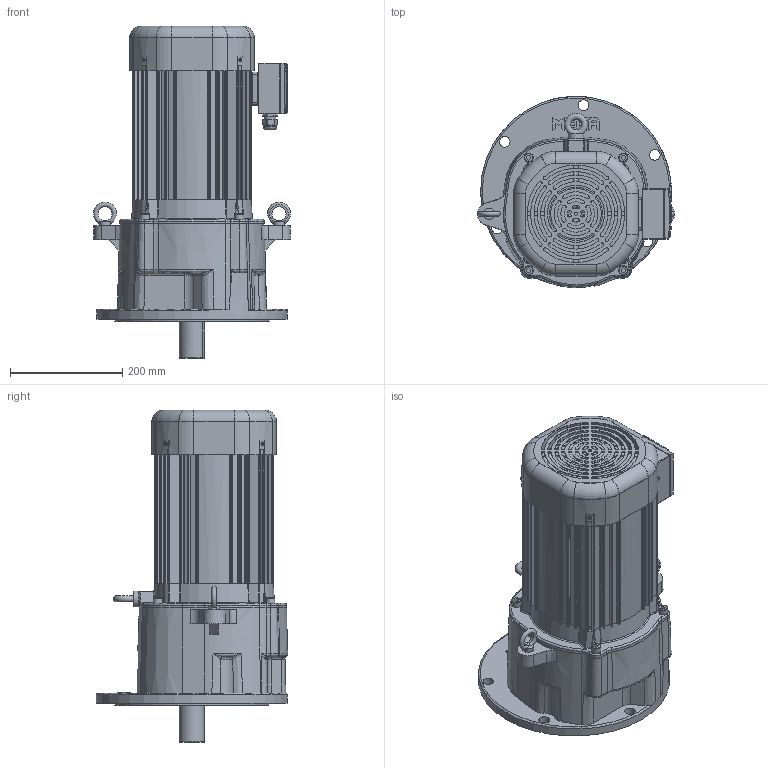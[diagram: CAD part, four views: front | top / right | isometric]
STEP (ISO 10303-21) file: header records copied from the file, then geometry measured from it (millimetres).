
FILE_DESCRIPTION(/* description */ (''),/* implementation_level */ '2;1');
FILE_NAME(/* name */ 'Z:\동력 3D 파일\PMK172-(5~30)-PA(B)370[ ]L (마스터).stp',/* time_stamp */ '2021-07-15T13:21:17+09:00',/* author */ ('jaebok'),/* organization */ (''),/* preprocessor_version */ 'ST-DEVELOPER v18.1',/* originating_system */ 'Autodesk Inventor 2022',/* authorisation */ '');
FILE_SCHEMA (('AUTOMOTIVE_DESIGN { 1 0 10303 214 3 1 1 }'));
Length unit declared in the file: millimetre
Products named in the file (1): 부품2
Bounding box: 351.17 x 341.06 x 591.5 mm (x, y, z)
Volume: 8263201.5 mm3; surface area: 1548945.1 mm2
Topology: 5 solids, 36 shells, 2940 faces, 7529 edges, 4620 vertices
Faces by surface type: plane 996, cylinder 831, bspline 645, torus 281, cone 132, sphere 55
Full cylindrical faces by diameter (mm): 3.25 x1, 3.6 x4, 4 x21, 4.5 x4, 5 x18, 6 x5, 6.8 x4, 7 x8, 8 x7, 8.376 x6, 9 x4, 10 x5, 10.2 x1, 11 x4, 12 x2, 12.5 x1, 15 x1, 16 x4, 19 x6, 20 x2, 21 x1, 23.6 x1, 25 x3, 26 x1, 28 x1, 31 x1, 36 x2, 45 x1, 48 x1, 50 x2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
Entity records: 113752 total; most frequent: CARTESIAN_POINT 43026, ORIENTED_EDGE 14774, DIRECTION 13243, EDGE_CURVE 7387, AXIS2_PLACEMENT_3D 5239, VERTEX_POINT 4620, EDGE_LOOP 3185, FACE_OUTER_BOUND 2940
